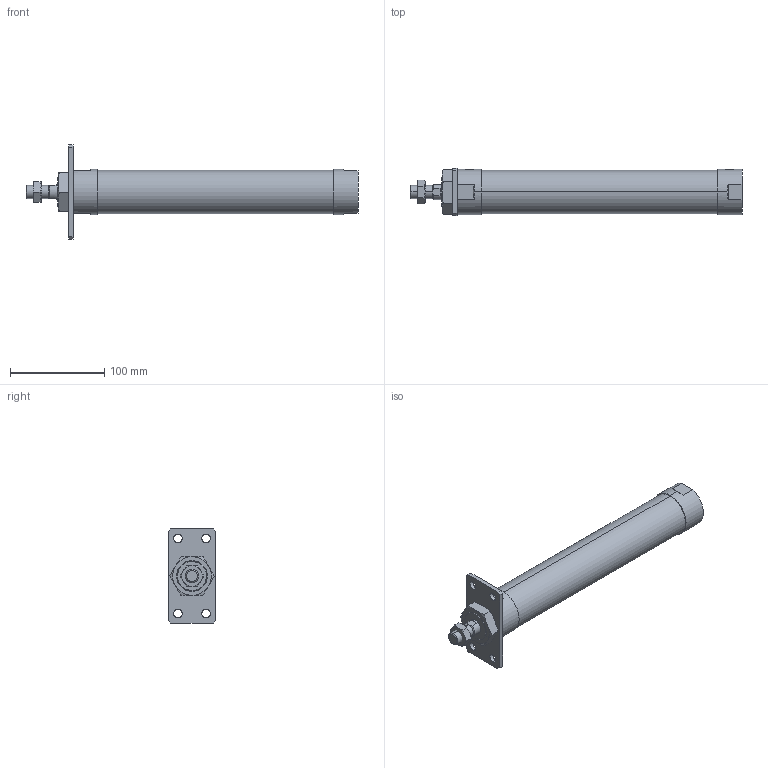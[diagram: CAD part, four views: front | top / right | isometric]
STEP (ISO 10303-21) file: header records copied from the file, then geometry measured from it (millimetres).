
FILE_DESCRIPTION (( 'STEP AP203' ), '1' );
FILE_NAME ('JGND2-40-200-A.STEP', '2016-08-04T03:13:44', ( '' ), ( '' ), 'SwSTEP 2.0', 'SolidWorks 2014', '' );
FILE_SCHEMA (( 'CONFIG_CONTROL_DESIGN' ));
Length unit declared in the file: millimetre
Products named in the file (5): J#2-40-A; JGND2-40-200-A; J#2-40-200(P)
Assembly tree (4 placements, depth 2):
  JGND2-40-200-A
    J#2-40-200(P)
    (unnamed)
    (unnamed)
    J#2-40-A
Bounding box: 353 x 50 x 100 mm (x, y, z)
Volume: 554015.5 mm3; surface area: 67796.7 mm2
Topology: 4 solids, 4 shells, 109 faces, 254 edges, 155 vertices
Faces by surface type: plane 42, cylinder 30, torus 24, cone 13
Entity records: 4068 total; most frequent: CARTESIAN_POINT 1112, DIRECTION 511, ORIENTED_EDGE 500, EDGE_CURVE 250, AXIS2_PLACEMENT_3D 208, VERTEX_POINT 155, EDGE_LOOP 129, FACE_OUTER_BOUND 109
